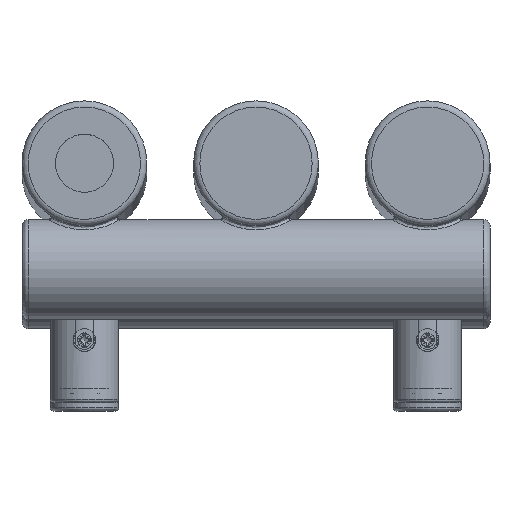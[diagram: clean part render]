
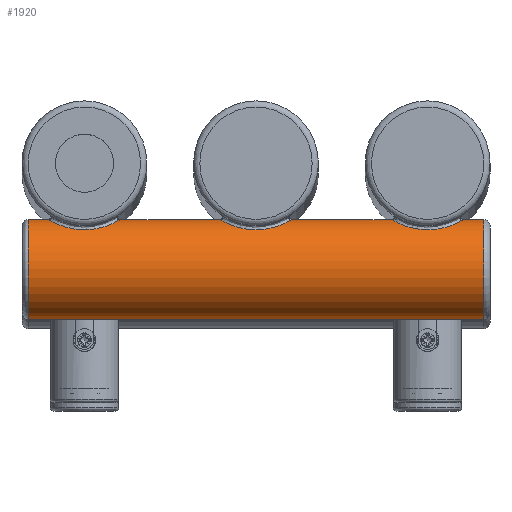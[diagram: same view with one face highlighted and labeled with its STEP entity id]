
A CAD part, top view. The second image highlights one B-rep face of the part: STEP entity #1920.
In plain terms, the highlighted cylindrical face has radius 16 mm (diameter 32 mm), a full revolution.
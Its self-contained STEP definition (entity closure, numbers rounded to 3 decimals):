
#164=FACE_BOUND('',#502,.T.);
#165=FACE_BOUND('',#503,.T.);
#166=FACE_BOUND('',#504,.T.);
#186=LINE('',#4022,#259);
#259=VECTOR('',#2407,16.);
#332=CYLINDRICAL_SURFACE('',#2101,16.);
#366=FACE_OUTER_BOUND('',#501,.T.);
#501=EDGE_LOOP('',(#1368,#1369,#1370,#1371));
#502=EDGE_LOOP('',(#1372));
#503=EDGE_LOOP('',(#1373));
#504=EDGE_LOOP('',(#1374));
#646=B_SPLINE_CURVE_WITH_KNOTS('',3,(#3993,#3994,#3995,#3996,#3997,#3998,
#3999,#4000,#4001,#4002,#4003,#4004,#4005,#4006,#4007,#4008,#4009,#4010,
#4011,#4012,#4013,#4014,#4015,#4016,#4017),.UNSPECIFIED.,.T.,.F.,(4,1,1,
1,1,1,1,1,1,1,1,1,1,1,1,1,1,1,1,1,1,1,4),(0.,0.367,0.733,
0.756,0.779,0.825,0.916,
1.1,1.466,1.955,2.199,2.322,
2.444,2.688,2.933,3.177,3.421,
3.666,3.91,4.154,4.399,4.765,
5.132),.UNSPECIFIED.);
#647=B_SPLINE_CURVE_WITH_KNOTS('',3,(#4025,#4026,#4027,#4028,#4029,#4030,
#4031,#4032,#4033,#4034,#4035,#4036,#4037,#4038,#4039,#4040,#4041,#4042,
#4043,#4044,#4045,#4046,#4047,#4048,#4049),.UNSPECIFIED.,.T.,.F.,(4,1,1,
1,1,1,1,1,1,1,1,1,1,1,1,1,1,1,1,1,1,1,4),(0.,0.367,0.733,
0.756,0.779,0.825,0.916,
1.1,1.466,1.955,2.199,2.322,
2.444,2.688,2.933,3.177,3.421,
3.666,3.91,4.154,4.399,4.765,
5.132),.UNSPECIFIED.);
#648=B_SPLINE_CURVE_WITH_KNOTS('',3,(#4051,#4052,#4053,#4054,#4055,#4056,
#4057,#4058,#4059,#4060,#4061,#4062,#4063,#4064,#4065,#4066,#4067,#4068,
#4069,#4070,#4071,#4072,#4073,#4074,#4075),.UNSPECIFIED.,.T.,.F.,(4,1,1,
1,1,1,1,1,1,1,1,1,1,1,1,1,1,1,1,1,1,1,4),(0.,0.367,0.733,
1.1,1.283,1.466,1.711,1.955,
2.077,2.199,2.444,2.933,3.177,
3.421,3.666,3.788,3.91,4.154,
4.277,4.399,4.582,4.765,5.132),
 .UNSPECIFIED.);
#697=CIRCLE('',#2102,16.);
#698=CIRCLE('',#2103,16.);
#851=VERTEX_POINT('',#3991);
#852=VERTEX_POINT('',#4019);
#853=VERTEX_POINT('',#4021);
#854=VERTEX_POINT('',#4024);
#855=VERTEX_POINT('',#4050);
#1059=EDGE_CURVE('',#851,#851,#646,.T.);
#1060=EDGE_CURVE('',#852,#852,#697,.T.);
#1061=EDGE_CURVE('',#852,#853,#186,.T.);
#1062=EDGE_CURVE('',#853,#853,#698,.T.);
#1063=EDGE_CURVE('',#854,#854,#647,.T.);
#1064=EDGE_CURVE('',#855,#855,#648,.T.);
#1368=ORIENTED_EDGE('',*,*,#1060,.F.);
#1369=ORIENTED_EDGE('',*,*,#1061,.T.);
#1370=ORIENTED_EDGE('',*,*,#1062,.F.);
#1371=ORIENTED_EDGE('',*,*,#1061,.F.);
#1372=ORIENTED_EDGE('',*,*,#1063,.F.);
#1373=ORIENTED_EDGE('',*,*,#1064,.F.);
#1374=ORIENTED_EDGE('',*,*,#1059,.F.);
#1920=ADVANCED_FACE('',(#366,#164,#165,#166),#332,.T.);
#2101=AXIS2_PLACEMENT_3D('',#4018,#2403,#2404);
#2102=AXIS2_PLACEMENT_3D('',#4020,#2405,#2406);
#2103=AXIS2_PLACEMENT_3D('',#4023,#2408,#2409);
#2403=DIRECTION('center_axis',(-1.,0.,0.));
#2404=DIRECTION('ref_axis',(0.,0.,1.));
#2405=DIRECTION('center_axis',(-1.,0.,0.));
#2406=DIRECTION('ref_axis',(0.,0.,1.));
#2407=DIRECTION('',(1.,0.,0.));
#2408=DIRECTION('center_axis',(1.,0.,0.));
#2409=DIRECTION('ref_axis',(0.,0.,1.));
#3991=CARTESIAN_POINT('',(-110.,-21.257,1769.676));
#3993=CARTESIAN_POINT('Ctrl Pts',(-110.,-21.257,1769.676));
#3994=CARTESIAN_POINT('Ctrl Pts',(-108.333,-21.257,1769.676));
#3995=CARTESIAN_POINT('Ctrl Pts',(-104.993,-20.856,1769.184));
#3996=CARTESIAN_POINT('Ctrl Pts',(-102.133,-19.807,1767.498));
#3997=CARTESIAN_POINT('Ctrl Pts',(-100.941,-19.258,1766.223));
#3998=CARTESIAN_POINT('Ctrl Pts',(-100.686,-19.137,1765.931));
#3999=CARTESIAN_POINT('Ctrl Pts',(-100.266,-18.931,1765.398));
#4000=CARTESIAN_POINT('Ctrl Pts',(-99.533,-18.546,1764.247));
#4001=CARTESIAN_POINT('Ctrl Pts',(-98.543,-17.949,1761.665));
#4002=CARTESIAN_POINT('Ctrl Pts',(-98.519,-17.942,1756.937));
#4003=CARTESIAN_POINT('Ctrl Pts',(-101.228,-19.553,1752.87));
#4004=CARTESIAN_POINT('Ctrl Pts',(-104.596,-20.618,1751.22));
#4005=CARTESIAN_POINT('Ctrl Pts',(-106.694,-21.024,1750.635));
#4006=CARTESIAN_POINT('Ctrl Pts',(-108.879,-21.279,1750.296));
#4007=CARTESIAN_POINT('Ctrl Pts',(-111.681,-21.278,1750.295));
#4008=CARTESIAN_POINT('Ctrl Pts',(-114.928,-20.769,1750.977));
#4009=CARTESIAN_POINT('Ctrl Pts',(-117.797,-19.861,1752.415));
#4010=CARTESIAN_POINT('Ctrl Pts',(-119.987,-18.831,1754.662));
#4011=CARTESIAN_POINT('Ctrl Pts',(-121.25,-18.078,1757.581));
#4012=CARTESIAN_POINT('Ctrl Pts',(-121.504,-17.911,1760.817));
#4013=CARTESIAN_POINT('Ctrl Pts',(-120.743,-18.396,1763.943));
#4014=CARTESIAN_POINT('Ctrl Pts',(-118.706,-19.497,1767.001));
#4015=CARTESIAN_POINT('Ctrl Pts',(-115.007,-20.859,1769.186));
#4016=CARTESIAN_POINT('Ctrl Pts',(-111.667,-21.257,1769.676));
#4017=CARTESIAN_POINT('Ctrl Pts',(-110.,-21.257,1769.676));
#4018=CARTESIAN_POINT('Origin',(20.,-34.,1760.));
#4019=CARTESIAN_POINT('',(-128.,-34.,1744.));
#4020=CARTESIAN_POINT('Origin',(-128.,-34.,1760.));
#4021=CARTESIAN_POINT('',(18.,-34.,1744.));
#4022=CARTESIAN_POINT('',(20.,-34.,1744.));
#4023=CARTESIAN_POINT('Origin',(18.,-34.,1760.));
#4024=CARTESIAN_POINT('',(-55.,-21.257,1769.676));
#4025=CARTESIAN_POINT('Ctrl Pts',(-55.,-21.257,1769.676));
#4026=CARTESIAN_POINT('Ctrl Pts',(-53.333,-21.257,1769.676));
#4027=CARTESIAN_POINT('Ctrl Pts',(-49.993,-20.856,1769.184));
#4028=CARTESIAN_POINT('Ctrl Pts',(-47.133,-19.807,1767.498));
#4029=CARTESIAN_POINT('Ctrl Pts',(-45.941,-19.258,1766.223));
#4030=CARTESIAN_POINT('Ctrl Pts',(-45.686,-19.137,1765.931));
#4031=CARTESIAN_POINT('Ctrl Pts',(-45.266,-18.931,1765.398));
#4032=CARTESIAN_POINT('Ctrl Pts',(-44.533,-18.546,1764.247));
#4033=CARTESIAN_POINT('Ctrl Pts',(-43.543,-17.949,1761.665));
#4034=CARTESIAN_POINT('Ctrl Pts',(-43.519,-17.942,1756.937));
#4035=CARTESIAN_POINT('Ctrl Pts',(-46.228,-19.553,1752.87));
#4036=CARTESIAN_POINT('Ctrl Pts',(-49.596,-20.618,1751.22));
#4037=CARTESIAN_POINT('Ctrl Pts',(-51.694,-21.024,1750.635));
#4038=CARTESIAN_POINT('Ctrl Pts',(-53.879,-21.279,1750.296));
#4039=CARTESIAN_POINT('Ctrl Pts',(-56.681,-21.278,1750.295));
#4040=CARTESIAN_POINT('Ctrl Pts',(-59.928,-20.769,1750.977));
#4041=CARTESIAN_POINT('Ctrl Pts',(-62.797,-19.861,1752.415));
#4042=CARTESIAN_POINT('Ctrl Pts',(-64.987,-18.831,1754.662));
#4043=CARTESIAN_POINT('Ctrl Pts',(-66.25,-18.078,1757.581));
#4044=CARTESIAN_POINT('Ctrl Pts',(-66.504,-17.911,1760.817));
#4045=CARTESIAN_POINT('Ctrl Pts',(-65.743,-18.396,1763.943));
#4046=CARTESIAN_POINT('Ctrl Pts',(-63.706,-19.497,1767.001));
#4047=CARTESIAN_POINT('Ctrl Pts',(-60.007,-20.859,1769.186));
#4048=CARTESIAN_POINT('Ctrl Pts',(-56.667,-21.257,1769.676));
#4049=CARTESIAN_POINT('Ctrl Pts',(-55.,-21.257,1769.676));
#4050=CARTESIAN_POINT('',(0.,-21.257,1769.676));
#4051=CARTESIAN_POINT('Ctrl Pts',(0.,-21.257,
1769.676));
#4052=CARTESIAN_POINT('Ctrl Pts',(1.667,-21.257,1769.676));
#4053=CARTESIAN_POINT('Ctrl Pts',(5.005,-20.862,1769.184));
#4054=CARTESIAN_POINT('Ctrl Pts',(9.172,-19.323,1766.732));
#4055=CARTESIAN_POINT('Ctrl Pts',(11.085,-18.177,1763.197));
#4056=CARTESIAN_POINT('Ctrl Pts',(11.461,-17.94,1759.999));
#4057=CARTESIAN_POINT('Ctrl Pts',(11.146,-18.139,1757.337));
#4058=CARTESIAN_POINT('Ctrl Pts',(9.987,-18.832,1754.662));
#4059=CARTESIAN_POINT('Ctrl Pts',(8.163,-19.688,1752.79));
#4060=CARTESIAN_POINT('Ctrl Pts',(6.363,-20.315,1751.696));
#4061=CARTESIAN_POINT('Ctrl Pts',(4.387,-20.85,1750.862));
#4062=CARTESIAN_POINT('Ctrl Pts',(0.602,-21.46,1750.076));
#4063=CARTESIAN_POINT('Ctrl Pts',(-3.97,-21.079,1750.503));
#4064=CARTESIAN_POINT('Ctrl Pts',(-7.798,-19.86,1752.413));
#4065=CARTESIAN_POINT('Ctrl Pts',(-9.986,-18.833,1754.664));
#4066=CARTESIAN_POINT('Ctrl Pts',(-11.04,-18.204,1757.095));
#4067=CARTESIAN_POINT('Ctrl Pts',(-11.377,-17.994,1759.199));
#4068=CARTESIAN_POINT('Ctrl Pts',(-11.377,-17.992,1761.337));
#4069=CARTESIAN_POINT('Ctrl Pts',(-10.869,-18.315,1763.422));
#4070=CARTESIAN_POINT('Ctrl Pts',(-9.87,-18.866,1765.253));
#4071=CARTESIAN_POINT('Ctrl Pts',(-8.73,-19.426,1766.665));
#4072=CARTESIAN_POINT('Ctrl Pts',(-7.088,-20.096,1767.962));
#4073=CARTESIAN_POINT('Ctrl Pts',(-4.172,-20.954,1769.303));
#4074=CARTESIAN_POINT('Ctrl Pts',(-1.667,-21.257,1769.676));
#4075=CARTESIAN_POINT('Ctrl Pts',(0.,-21.257,
1769.676));
